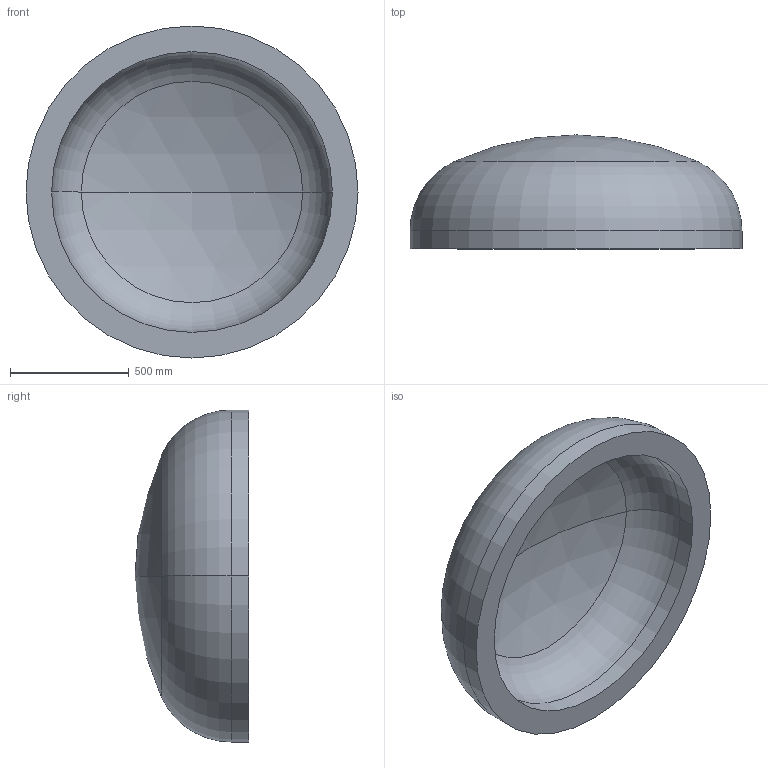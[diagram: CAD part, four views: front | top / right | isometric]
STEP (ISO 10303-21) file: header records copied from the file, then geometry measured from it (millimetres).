
FILE_DESCRIPTION (( 'STEP AP203' ), '1' );
FILE_NAME ('DIN 28013 Korbbogenform_-_Boden DIN 28013 - 1400 x 75 - I - s=108.step', '2016-07-01T10:30:29', ( '' ), ( '' ), 'SwSTEP 2.0', 'SolidWorks 2013', '' );
FILE_SCHEMA (( 'CONFIG_CONTROL_DESIGN' ));
Length unit declared in the file: millimetre
Products named in the file (1): DIN 28013 Korbbogenform_-_Boden DIN 28013 - 1400 x 75 - I - s=108
Bounding box: 1400 x 480.26 x 1400 mm (x, y, z)
Volume: 241720582.5 mm3; surface area: 4939100.4 mm2
Topology: 1 solids, 1 shells, 13 faces, 24 edges, 14 vertices
Faces by surface type: torus 4, cylinder 4, sphere 4, plane 1
Entity records: 407 total; most frequent: DIRECTION 72, CARTESIAN_POINT 52, ORIENTED_EDGE 48, AXIS2_PLACEMENT_3D 34, EDGE_CURVE 24, CIRCLE 20, VERTEX_POINT 14, EDGE_LOOP 14
